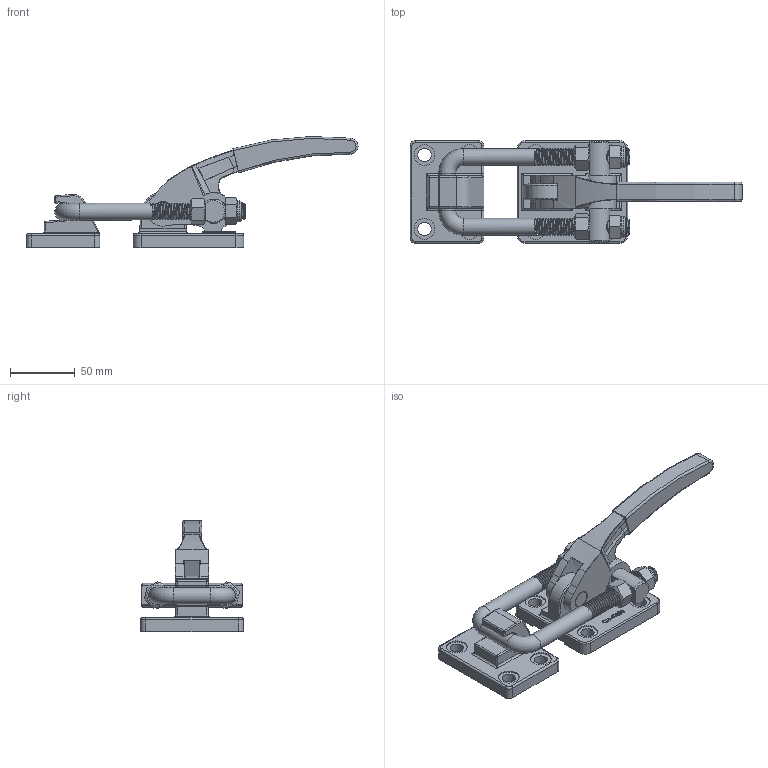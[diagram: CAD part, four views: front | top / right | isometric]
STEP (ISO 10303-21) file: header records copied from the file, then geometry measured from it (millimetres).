
FILE_DESCRIPTION(/* description */ ('STEP AP203'),/* implementation_level */ '2;1');
FILE_NAME(/* name */ 'D:\Vault_2016\Projekty\Clamptek\STRONA\Latch type clamp\CH-40380\CH-40380.stp',/* time_stamp */ '2019-01-11T16:31:46+01:00',/* author */ ('Łukasz'),/* organization */ ('Î¢ÈíÖÐ¹ú'),/* preprocessor_version */ 'ST-DEVELOPER v17.2',/* originating_system */ 'Autodesk Inventor 2019',/* authorisation */ '');
FILE_SCHEMA (('AUTOMOTIVE_DESIGN { 1 0 10303 214 3 1 1 }'));
Products named in the file (10): CH-40380; 40380-04_Ä¬ÈÏ; 40380-03_Ä¬ÈÏ; 40380-05_Ä¬ÈÏ; 40370-07_Ä¬ÈÏ; 1-2·ÀË¨ÂÝÄ¸_Ä¬
ÈÏ; 40380-01_Ä¬ÈÏ; 1-2ÂÝÄ¸_Ä¬ÈÏ; 40380-06_Ä¬ÈÏ; 40380-02_Ä¬ÈÏ
Assembly tree (11 placements, depth 2):
  CH-40380
    40380-04_Ä¬ÈÏ
    40380-03_Ä¬ÈÏ
    40380-05_Ä¬ÈÏ
    1-2·ÀË¨ÂÝÄ¸_Ä¬
ÈÏ  x2
    40370-07_Ä¬ÈÏ
    40380-01_Ä¬ÈÏ
    1-2ÂÝÄ¸_Ä¬ÈÏ  x2
    40380-06_Ä¬ÈÏ
    40380-02_Ä¬ÈÏ
Bounding box: 257.18 x 79.4 x 85.99 mm (x, y, z)
Volume: 267567.3 mm3; surface area: 91714.1 mm2
Topology: 11 solids, 11 shells, 1207 faces, 3416 edges, 2260 vertices
Faces by surface type: plane 713, bspline 222, cylinder 209, torus 32, cone 21, sphere 10
Full cylindrical faces by diameter (mm): 1.99 x1, 2.253 x1, 10.3 x8, 10.5 x16, 12.5 x4, 13 x71, 15.8 x2, 16 x10, 18.9 x1, 19 x1
Entity records: 77954 total; most frequent: CARTESIAN_POINT 48675, ORIENTED_EDGE 6582, DIRECTION 5219, EDGE_CURVE 3291, VERTEX_POINT 2182, LINE 1941, VECTOR 1941, AXIS2_PLACEMENT_3D 1639
